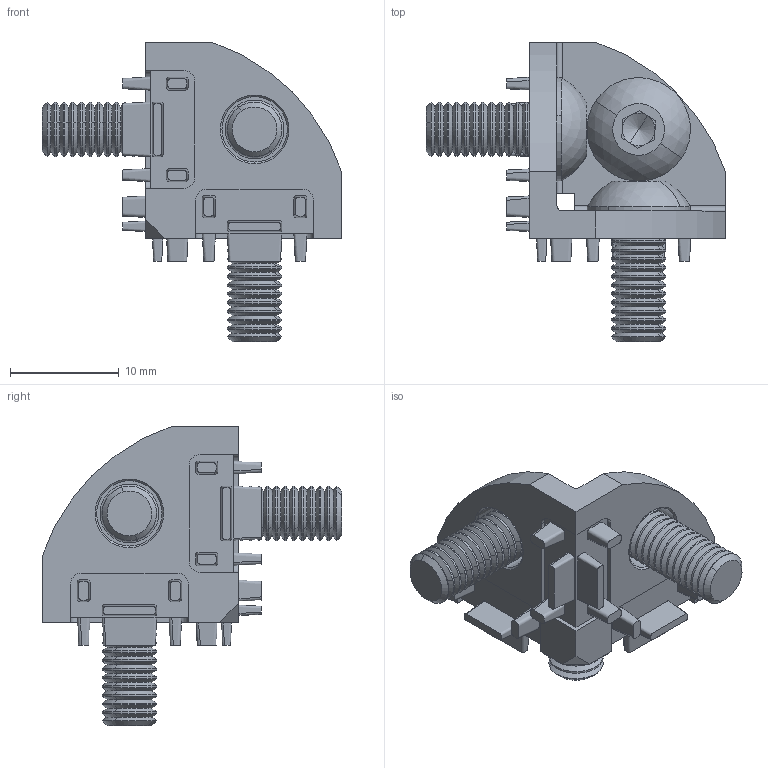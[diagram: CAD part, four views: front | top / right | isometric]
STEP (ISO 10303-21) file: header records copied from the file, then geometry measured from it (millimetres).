
FILE_DESCRIPTION (( 'STEP AP203' ), '1' );
FILE_NAME ('352003_Eckwinkel 5 20.step', '2022-06-09T08:53:25', ( '' ), ( '' ), 'SwSTEP 2.0', 'SolidWorks 2021', '' );
FILE_SCHEMA (( 'CONFIG_CONTROL_DESIGN' ));
Length unit declared in the file: millimetre
Products named in the file (3): ISO 7380 - M5 x 12 - 12S_ISO 7380 - M5 x 12 - 12S; 99900739 Eckwinkel 5 20; 352003_Eckwinkel 5 20
Assembly tree (4 placements, depth 2):
  352003_Eckwinkel 5 20
    99900739 Eckwinkel 5 20
    ISO 7380 - M5 x 12 - 12S_ISO 7380 - M5 x 12 - 12S  x3
Bounding box: 27.5 x 27.5 x 27.5 mm (x, y, z)
Volume: 2512.6 mm3; surface area: 3277.4 mm2
Topology: 4 solids, 4 shells, 438 faces, 1320 edges, 907 vertices
Faces by surface type: cone 180, cylinder 114, plane 96, bspline 36, torus 6, sphere 6
Entity records: 10865 total; most frequent: CARTESIAN_POINT 3976, ORIENTED_EDGE 1564, DIRECTION 1140, EDGE_CURVE 782, VERTEX_POINT 577, AXIS2_PLACEMENT_3D 413, VECTOR 314, LINE 314
